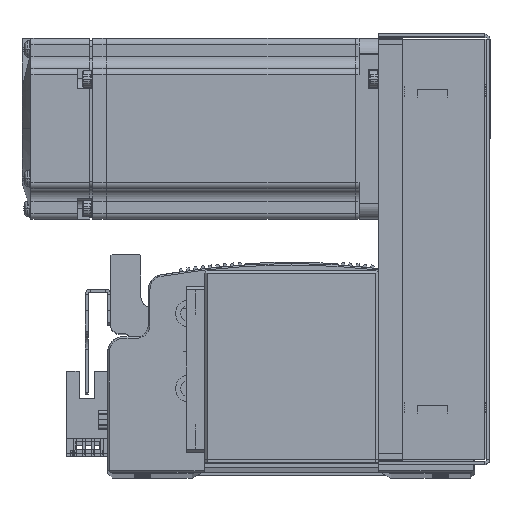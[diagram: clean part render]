
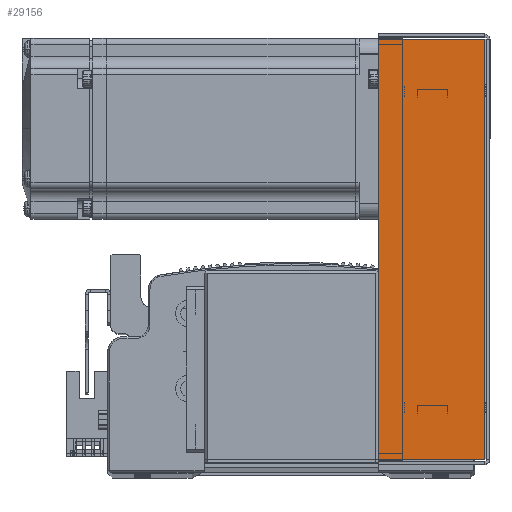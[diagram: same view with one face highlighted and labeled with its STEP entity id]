
A CAD part, top view. The second image highlights one B-rep face of the part: STEP entity #29156.
In plain terms, the highlighted planar face has unit normal (0, 0, 1) as drawn and (0, 0, -1) by its records, which use the part's own axes.
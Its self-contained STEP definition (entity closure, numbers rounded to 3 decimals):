
#1711 = CARTESIAN_POINT ( 'NONE',  ( 69.793, 36., -33.5 ) ) ;
#1739 = CARTESIAN_POINT ( 'NONE',  ( -69.793, 0.737, -33.5 ) ) ;
#1978 = CARTESIAN_POINT ( 'NONE',  ( -69.793, 36., -33.5 ) ) ;
#2021 = CARTESIAN_POINT ( 'NONE',  ( 69.793, 0.737, -33.5 ) ) ;
#11715 = AXIS2_PLACEMENT_3D ( 'NONE', #84929, #84904, #84949 ) ;
#16567 = CARTESIAN_POINT ( 'NONE',  ( 69.793, 0., -33.5 ) ) ;
#16568 = DIRECTION ( 'NONE',  ( 0., 1., 0. ) ) ;
#16668 = DIRECTION ( 'NONE',  ( 1., 0., 0. ) ) ;
#16670 = CARTESIAN_POINT ( 'NONE',  ( 0., 36., -33.5 ) ) ;
#16804 = CARTESIAN_POINT ( 'NONE',  ( 71.5, 0.737, -33.5 ) ) ;
#16809 = DIRECTION ( 'NONE',  ( 1., 0., 0. ) ) ;
#16853 = CARTESIAN_POINT ( 'NONE',  ( -69.793, 0., -33.5 ) ) ;
#16867 = DIRECTION ( 'NONE',  ( 0., 1., 0. ) ) ;
#18240 = ORIENTED_EDGE ( 'NONE', *, *, #75042, .T. ) ;
#18246 = ORIENTED_EDGE ( 'NONE', *, *, #74849, .F. ) ;
#18264 = ORIENTED_EDGE ( 'NONE', *, *, #75024, .F. ) ;
#18266 = ORIENTED_EDGE ( 'NONE', *, *, #74915, .T. ) ;
#22528 = LINE ( 'NONE', #16670, #22539 ) ;
#22539 = VECTOR ( 'NONE', #16668, 1000. ) ;
#22544 = VECTOR ( 'NONE', #16568, 1000. ) ;
#22555 = LINE ( 'NONE', #16567, #22544 ) ;
#22679 = VECTOR ( 'NONE', #16809, 1000. ) ;
#22689 = LINE ( 'NONE', #16804, #22679 ) ;
#22785 = LINE ( 'NONE', #16853, #22788 ) ;
#22788 = VECTOR ( 'NONE', #16867, 1000. ) ;
#29156 = ADVANCED_FACE ( 'NONE', ( #39535 ), #84902, .F. ) ;
#39535 = FACE_OUTER_BOUND ( 'NONE', #58552, .T. ) ;
#58552 = EDGE_LOOP ( 'NONE', ( #18264, #18240, #18266, #18246 ) ) ;
#74849 = EDGE_CURVE ( 'NONE', #88081, #87949, #22555, .T. ) ;
#74915 = EDGE_CURVE ( 'NONE', #88020, #87949, #22528, .T. ) ;
#75024 = EDGE_CURVE ( 'NONE', #87984, #88081, #22689, .T. ) ;
#75042 = EDGE_CURVE ( 'NONE', #87984, #88020, #22785, .T. ) ;
#84902 = PLANE ( 'NONE',  #11715 ) ;
#84904 = DIRECTION ( 'NONE',  ( 0., 0., 1. ) ) ;
#84929 = CARTESIAN_POINT ( 'NONE',  ( 0., 0., -33.5 ) ) ;
#84949 = DIRECTION ( 'NONE',  ( 0., -1., 0. ) ) ;
#87949 = VERTEX_POINT ( 'NONE', #1711 ) ;
#87984 = VERTEX_POINT ( 'NONE', #1739 ) ;
#88020 = VERTEX_POINT ( 'NONE', #1978 ) ;
#88081 = VERTEX_POINT ( 'NONE', #2021 ) ;
